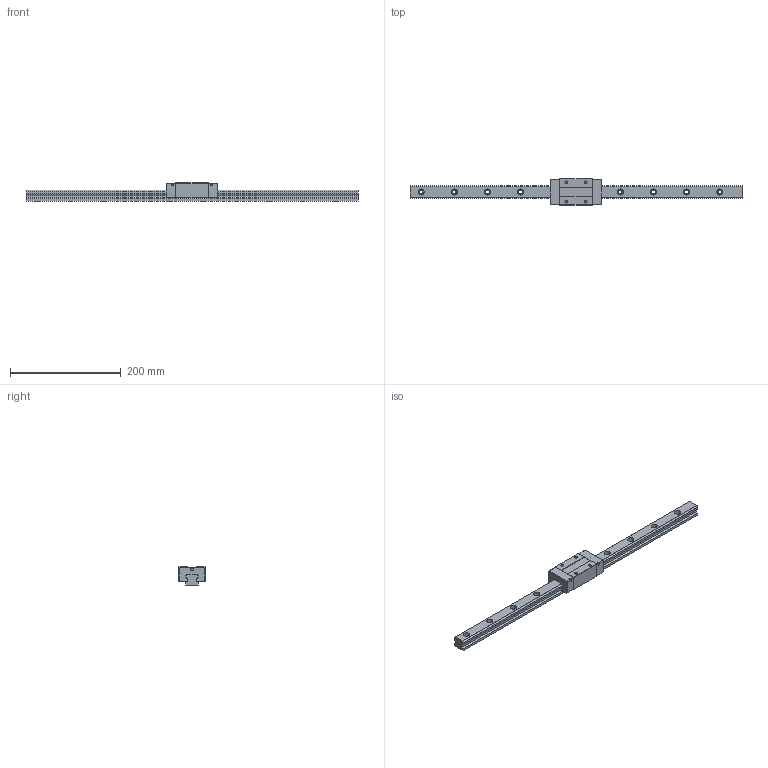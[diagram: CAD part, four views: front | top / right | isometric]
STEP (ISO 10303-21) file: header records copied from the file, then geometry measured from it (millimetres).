
FILE_DESCRIPTION (( 'STEP AP203' ), '1' );
FILE_NAME ('TRS25VN-WW.STEP', '2024-06-12T07:02:18', ( '' ), ( '' ), 'SwSTEP 2.0', 'SolidWorks 2022', '' );
FILE_SCHEMA (( 'CONFIG_CONTROL_DESIGN' ));
Length unit declared in the file: millimetre
Products named in the file (1): TRS25VN-WW
Bounding box: 600 x 48 x 33 mm (x, y, z)
Volume: 324806.7 mm3; surface area: 78352 mm2
Topology: 2 solids, 2 shells, 192 faces, 496 edges, 328 vertices
Faces by surface type: cylinder 96, plane 96
Entity records: 6023 total; most frequent: DIRECTION 1074, CARTESIAN_POINT 1017, ORIENTED_EDGE 992, EDGE_CURVE 496, AXIS2_PLACEMENT_3D 385, VERTEX_POINT 328, VECTOR 304, LINE 304
